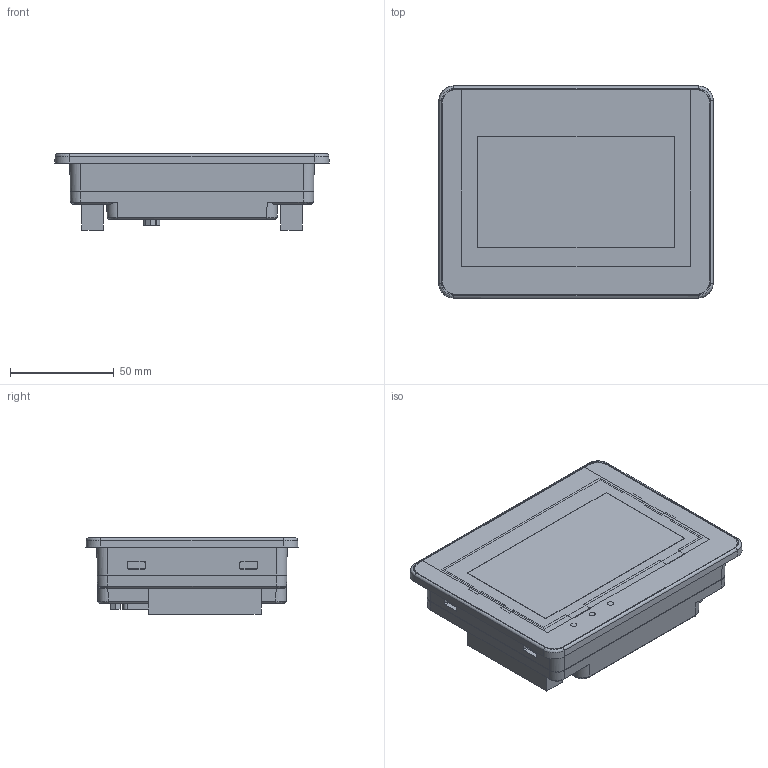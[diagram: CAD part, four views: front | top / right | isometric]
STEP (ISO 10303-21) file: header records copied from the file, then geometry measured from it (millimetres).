
FILE_DESCRIPTION (( 'STEP AP214' ), '1' );
FILE_NAME ('4.3渡そ郪蚾芞0000.STEP', '2022-03-23T01:36:54', ( '' ), ( '' ), 'SwSTEP 2.0', 'SolidWorks 2020', '' );
FILE_SCHEMA (( 'AUTOMOTIVE_DESIGN' ));
Length unit declared in the file: millimetre
Products named in the file (1): 4.3渡そ郪蚾芞0000
Bounding box: 132 x 102 x 36.75 mm (x, y, z)
Volume: 119586.7 mm3; surface area: 130114.6 mm2
Topology: 14 solids, 14 shells, 1507 faces, 4070 edges, 2652 vertices
Faces by surface type: plane 1035, cylinder 318, cone 114, bspline 40
Entity records: 68130 total; most frequent: CARTESIAN_POINT 14055, ORIENTED_EDGE 8134, DIRECTION 7066, EDGE_CURVE 4067, LINE 2744, VECTOR 2744, VERTEX_POINT 2652, AXIS2_PLACEMENT_3D 2161
